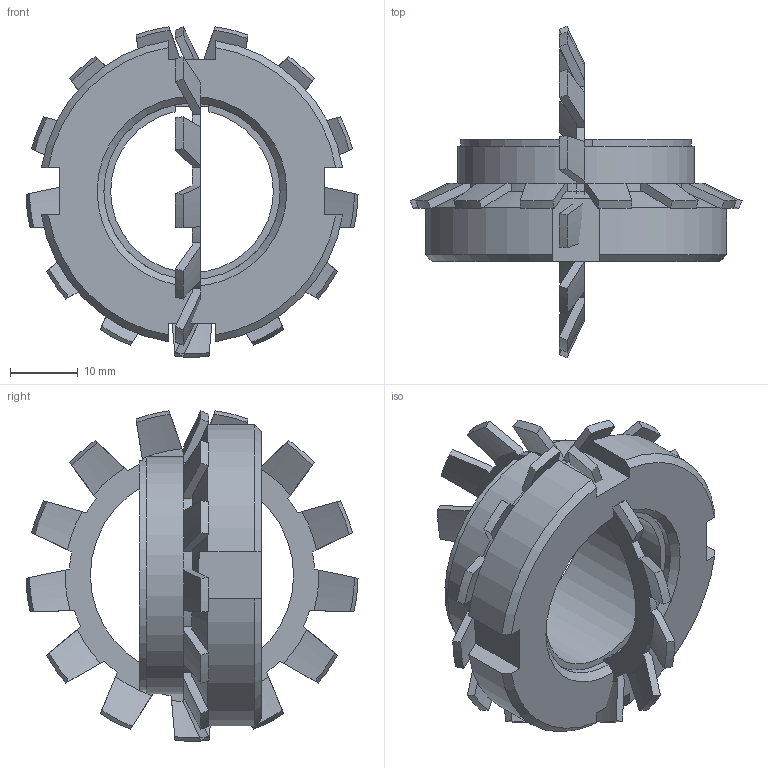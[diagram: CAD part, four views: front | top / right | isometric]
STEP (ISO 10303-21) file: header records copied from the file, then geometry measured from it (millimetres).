
FILE_DESCRIPTION( ( 'Unknown' ), '1' );
FILE_NAME( 'C:/Dokumente und Einstellungen/Sven/Desktop/homepage/cad - homepage/KBS51/KBS 51 - 24 x 35.stp', 'Unknown', ( 'Unknown' ), ( 'Unknown' ), 'XStep 1.0', 'Unknown', ' ' );
FILE_SCHEMA( ( 'automotive_design' ) );
Length unit declared in the file: millimetre
Products named in the file (3): Assem1; KBS 51 - 24 x 35; 08570066_locking_plate_din_5406_mb_6_2_14a
Bounding box: 48.99 x 48.99 x 48.75 mm (x, y, z)
Volume: 29041.9 mm3; surface area: 15713.1 mm2
Topology: 4 solids, 4 shells, 240 faces, 688 edges, 456 vertices
Faces by surface type: plane 104, cone 94, cylinder 42
Full cylindrical faces by diameter (mm): 26 x2, 35 x2
Entity records: 4268 total; most frequent: CARTESIAN_POINT 879, ORIENTED_EDGE 676, DIRECTION 640, EDGE_CURVE 338, AXIS2_PLACEMENT_3D 253, VERTEX_POINT 226, LINE 134, VECTOR 134
